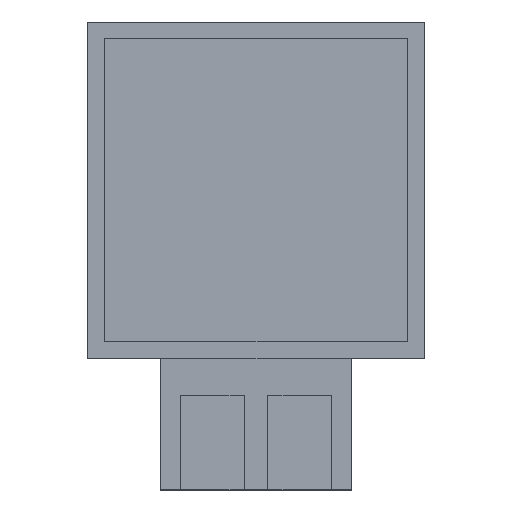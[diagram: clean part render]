
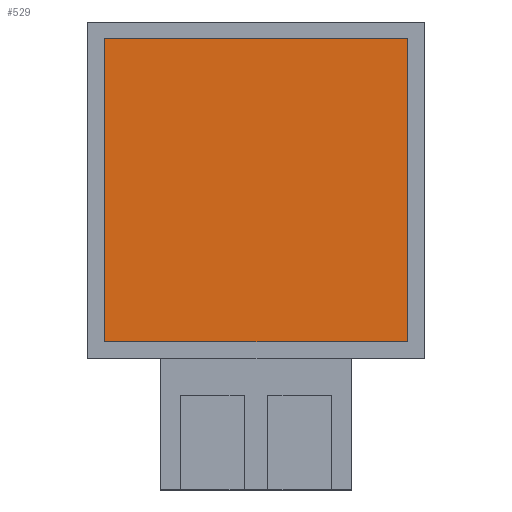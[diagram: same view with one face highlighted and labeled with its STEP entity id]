
A CAD part, top view. The second image highlights one B-rep face of the part: STEP entity #529.
In plain terms, the highlighted planar face has unit normal (0, 0, 1).
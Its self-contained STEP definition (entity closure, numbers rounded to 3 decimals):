
#400 = VERTEX_POINT('',#401);
#401 = CARTESIAN_POINT('',(-4.5,-4.5,4.3));
#416 = VERTEX_POINT('',#417);
#417 = CARTESIAN_POINT('',(-4.5,4.5,4.3));
#423 = EDGE_CURVE('',#400,#416,#424,.T.);
#424 = LINE('',#425,#426);
#425 = CARTESIAN_POINT('',(-4.5,-4.5,4.3));
#426 = VECTOR('',#427,1.);
#427 = DIRECTION('',(-0.,1.,0.));
#440 = VERTEX_POINT('',#441);
#441 = CARTESIAN_POINT('',(4.5,-4.5,4.3));
#456 = VERTEX_POINT('',#457);
#457 = CARTESIAN_POINT('',(4.5,4.5,4.3));
#463 = EDGE_CURVE('',#440,#456,#464,.T.);
#464 = LINE('',#465,#466);
#465 = CARTESIAN_POINT('',(4.5,-4.5,4.3));
#466 = VECTOR('',#467,1.);
#467 = DIRECTION('',(-0.,1.,0.));
#484 = EDGE_CURVE('',#400,#440,#485,.T.);
#485 = LINE('',#486,#487);
#486 = CARTESIAN_POINT('',(-4.5,-4.5,4.3));
#487 = VECTOR('',#488,1.);
#488 = DIRECTION('',(1.,0.,-0.));
#506 = EDGE_CURVE('',#416,#456,#507,.T.);
#507 = LINE('',#508,#509);
#508 = CARTESIAN_POINT('',(-4.5,4.5,4.3));
#509 = VECTOR('',#510,1.);
#510 = DIRECTION('',(1.,0.,-0.));
#529 = ADVANCED_FACE('',(#530),#536,.T.);
#530 = FACE_BOUND('',#531,.T.);
#531 = EDGE_LOOP('',(#532,#533,#534,#535));
#532 = ORIENTED_EDGE('',*,*,#423,.F.);
#533 = ORIENTED_EDGE('',*,*,#484,.T.);
#534 = ORIENTED_EDGE('',*,*,#463,.T.);
#535 = ORIENTED_EDGE('',*,*,#506,.F.);
#536 = PLANE('',#537);
#537 = AXIS2_PLACEMENT_3D('',#538,#539,#540);
#538 = CARTESIAN_POINT('',(-4.5,-4.5,4.3));
#539 = DIRECTION('',(0.,0.,1.));
#540 = DIRECTION('',(1.,0.,-0.));
